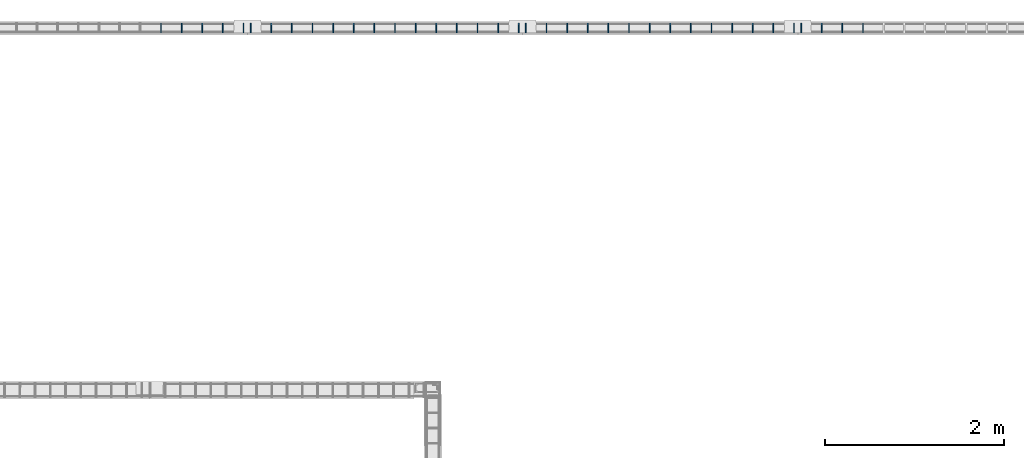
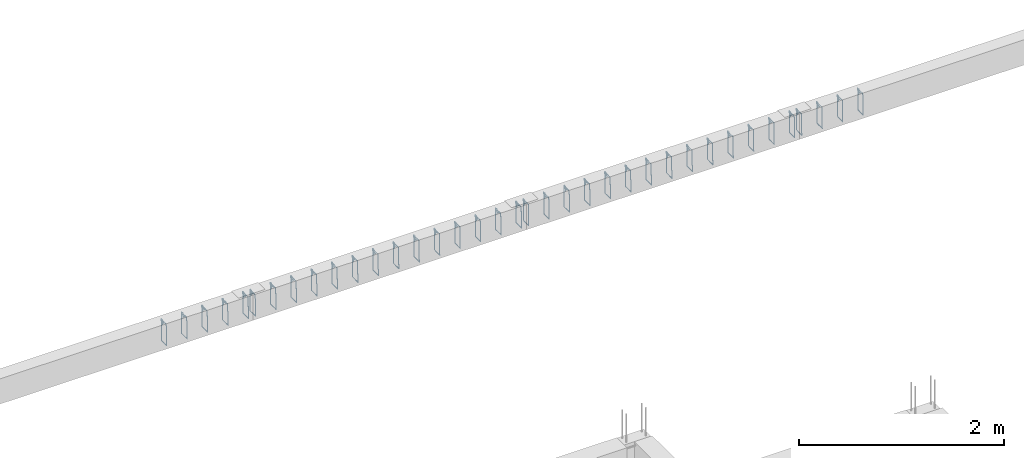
# One storey, part 127 of 150: 37 reinforcing bars.
"""IFC4 building model written with IfcOpenShell, lengths in centimetres."""

from ifc_helpers import new_model, entity, si_unit, derived_unit, frame, origin_with_axes, place, context, project, spatial, source, transform, mapped, element, save


model = new_model("IFC4")

# Units and contexts
model_context = context("Model", 3, precision=1e-05, world=origin_with_axes(), identifier="Body")
ifc_project = project(units=[si_unit("LENGTHUNIT", "METRE", prefix="CENTI"), si_unit("VOLUMEUNIT", "CUBIC_METRE"), si_unit("AREAUNIT", "SQUARE_METRE"), si_unit("POWERUNIT", "WATT"), si_unit("LUMINOUSFLUXUNIT", "LUMEN"), si_unit("ELECTRICCURRENTUNIT", "AMPERE"), si_unit("PRESSUREUNIT", "PASCAL", prefix="KILO"), si_unit("MASSUNIT", "GRAM", prefix="KILO"), si_unit("PLANEANGLEUNIT", "RADIAN"), derived_unit("VOLUMETRICFLOWRATEUNIT", [(si_unit("LENGTHUNIT", "METRE"), 3), (si_unit("TIMEUNIT", "SECOND"), -1)])], contexts=[model_context])

# Site, building, storey
site_placement = place(None, frame((-4000.0, 0.0, 0.0), z_axis=(0.0, 0.0, 1.0), x_axis=(1.0, 0.0, 0.0)))
site = spatial("IfcSite", under=ifc_project, at=site_placement, Name="PADRÃO")
building_placement = place(site_placement, frame((0.0, 0.0, -14.0)))
building = spatial("IfcBuilding", under=site, at=building_placement, Name="CRECHE PRÉ-ESCOLA TIPO 2")
placement = place(building_placement, origin_with_axes())
storey_placement = place(placement, frame((0.0, 0.0, 30.0), z_axis=(0.0, 0.0, 1.0), x_axis=(1.0, 0.0, 0.0)))
storey = spatial("IfcBuildingStorey", under=building, at=storey_placement, Name="VIGA BALDRAME", CompositionType="ELEMENT", Elevation=16.0)

# Reinforcing bars
shared_shape_1 = source(origin_with_axes(), model_context, "Body", "AdvancedSweptSolid", [
    entity("IfcSweptDiskSolid", entity("IfcCompositeCurve", [entity("IfcCompositeCurveSegment", "CONTINUOUS", True, entity("IfcPolyline", [entity("IfcCartesianPoint", [2.0, -6.0, 0.0]), entity("IfcCartesianPoint", [2.0, 0.0, 0.0])])), entity("IfcCompositeCurveSegment", "CONTINUOUS", True, entity("IfcPolyline", [entity("IfcCartesianPoint", [2.0, 0.0, 0.0]), entity("IfcCartesianPoint", [0.0, 0.0, 0.0])])), entity("IfcCompositeCurveSegment", "CONTINUOUS", True, entity("IfcPolyline", [entity("IfcCartesianPoint", [0.0, 0.0, 0.0]), entity("IfcCartesianPoint", [0.0, -25.5, 0.0])])), entity("IfcCompositeCurveSegment", "CONTINUOUS", True, entity("IfcPolyline", [entity("IfcCartesianPoint", [0.0, -25.5, 0.0]), entity("IfcCartesianPoint", [10.5, -25.5, 0.0])])), entity("IfcCompositeCurveSegment", "CONTINUOUS", True, entity("IfcPolyline", [entity("IfcCartesianPoint", [10.5, -25.5, 0.0]), entity("IfcCartesianPoint", [10.5, 0.0, 0.5])])), entity("IfcCompositeCurveSegment", "CONTINUOUS", True, entity("IfcPolyline", [entity("IfcCartesianPoint", [10.5, 0.0, 0.5]), entity("IfcCartesianPoint", [0.0, 0.0, 0.5])])), entity("IfcCompositeCurveSegment", "CONTINUOUS", True, entity("IfcPolyline", [entity("IfcCartesianPoint", [0.0, 0.0, 0.5]), entity("IfcCartesianPoint", [0.0, -2.0, 0.5])])), entity("IfcCompositeCurveSegment", "CONTINUOUS", True, entity("IfcPolyline", [entity("IfcCartesianPoint", [0.0, -2.0, 0.5]), entity("IfcCartesianPoint", [6.0, -2.0, 0.5])]))], False), 0.25),
])
for number, where, z_axis, x_axis, name in (
    (1, (813.0, 4491.75, -2.25), (-1.0, 0.0, 0.0), (0.0, -1.0, 0.0), "V101 - Estribo"),
    (2, (836.0, 4491.75, -2.25), (-1.0, 0.0, 0.0), (0.0, -1.0, 0.0), "V101 - Estribo"),
    (3, (859.0, 4491.75, -2.25), (-1.0, 0.0, 0.0), (0.0, -1.0, 0.0), "V101 - Estribo"),
    (4, (882.0, 4491.75, -2.25), (-1.0, 0.0, 0.0), (0.0, -1.0, 0.0), "V101 - Estribo"),
    (5, (905.0, 4491.75, -2.25), (-1.0, 0.0, 0.0), (0.0, -1.0, 0.0), "V101 - Estribo"),
):
    element("IfcReinforcingBar", number, at=place(storey_placement, frame(where, z_axis=z_axis, x_axis=x_axis)), inside=storey, Name=name, BarLength=0.0, CrossSectionArea=1.9634954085e-05, NominalDiameter=0.5, PredefinedType="MAIN", context=model_context, shape_type="MappedRepresentation", body=[
        mapped(shared_shape_1, transform((0.0, 0.0, 0.0), scale=1.0)),
    ])
shared_shape_2 = source(origin_with_axes(), model_context, "Body", "AdvancedSweptSolid", [
    entity("IfcSweptDiskSolid", entity("IfcCompositeCurve", [entity("IfcCompositeCurveSegment", "CONTINUOUS", True, entity("IfcPolyline", [entity("IfcCartesianPoint", [2.0, -6.0, 0.0]), entity("IfcCartesianPoint", [2.0, 0.0, 0.0])])), entity("IfcCompositeCurveSegment", "CONTINUOUS", True, entity("IfcPolyline", [entity("IfcCartesianPoint", [2.0, 0.0, 0.0]), entity("IfcCartesianPoint", [0.0, 0.0, 0.0])])), entity("IfcCompositeCurveSegment", "CONTINUOUS", True, entity("IfcPolyline", [entity("IfcCartesianPoint", [0.0, 0.0, 0.0]), entity("IfcCartesianPoint", [0.0, -25.5, 0.0])])), entity("IfcCompositeCurveSegment", "CONTINUOUS", True, entity("IfcPolyline", [entity("IfcCartesianPoint", [0.0, -25.5, 0.0]), entity("IfcCartesianPoint", [10.5, -25.5, 0.0])])), entity("IfcCompositeCurveSegment", "CONTINUOUS", True, entity("IfcPolyline", [entity("IfcCartesianPoint", [10.5, -25.5, 0.0]), entity("IfcCartesianPoint", [10.5, 0.0, 0.5])])), entity("IfcCompositeCurveSegment", "CONTINUOUS", True, entity("IfcPolyline", [entity("IfcCartesianPoint", [10.5, 0.0, 0.5]), entity("IfcCartesianPoint", [0.0, 0.0, 0.5])])), entity("IfcCompositeCurveSegment", "CONTINUOUS", True, entity("IfcPolyline", [entity("IfcCartesianPoint", [0.0, 0.0, 0.5]), entity("IfcCartesianPoint", [0.0, -2.0, 0.5])])), entity("IfcCompositeCurveSegment", "CONTINUOUS", True, entity("IfcPolyline", [entity("IfcCartesianPoint", [0.0, -2.0, 0.5]), entity("IfcCartesianPoint", [6.0, -2.0, 0.5])]))], False), 0.25),
])
for number, where, z_axis, x_axis, name in (
    (6, (913.0, 4491.75, -2.25), (-1.0, 0.0, 0.0), (0.0, -1.0, 0.0), "V101 - Estribo"),
    (7, (936.0, 4491.75, -2.25), (-1.0, 0.0, 0.0), (0.0, -1.0, 0.0), "V101 - Estribo"),
    (8, (959.0, 4491.75, -2.25), (-1.0, 0.0, 0.0), (0.0, -1.0, 0.0), "V101 - Estribo"),
    (9, (982.0, 4491.75, -2.25), (-1.0, 0.0, 0.0), (0.0, -1.0, 0.0), "V101 - Estribo"),
    (10, (1005.0, 4491.75, -2.25), (-1.0, 0.0, 0.0), (0.0, -1.0, 0.0), "V101 - Estribo"),
    (11, (1028.0, 4491.75, -2.25), (-1.0, 0.0, 0.0), (0.0, -1.0, 0.0), "V101 - Estribo"),
    (12, (1051.0, 4491.75, -2.25), (-1.0, 0.0, 0.0), (0.0, -1.0, 0.0), "V101 - Estribo"),
    (13, (1074.0, 4491.75, -2.25), (-1.0, 0.0, 0.0), (0.0, -1.0, 0.0), "V101 - Estribo"),
    (14, (1097.0, 4491.75, -2.25), (-1.0, 0.0, 0.0), (0.0, -1.0, 0.0), "V101 - Estribo"),
    (15, (1120.0, 4491.75, -2.25), (-1.0, 0.0, 0.0), (0.0, -1.0, 0.0), "V101 - Estribo"),
    (16, (1143.0, 4491.75, -2.25), (-1.0, 0.0, 0.0), (0.0, -1.0, 0.0), "V101 - Estribo"),
    (17, (1166.0, 4491.75, -2.25), (-1.0, 0.0, 0.0), (0.0, -1.0, 0.0), "V101 - Estribo"),
    (18, (1189.0, 4491.75, -2.25), (-1.0, 0.0, 0.0), (0.0, -1.0, 0.0), "V101 - Estribo"),
    (19, (1212.0, 4491.75, -2.25), (-1.0, 0.0, 0.0), (0.0, -1.0, 0.0), "V101 - Estribo"),
):
    element("IfcReinforcingBar", number, at=place(storey_placement, frame(where, z_axis=z_axis, x_axis=x_axis)), inside=storey, Name=name, BarLength=0.0, CrossSectionArea=1.9634954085e-05, NominalDiameter=0.5, PredefinedType="MAIN", context=model_context, shape_type="MappedRepresentation", body=[
        mapped(shared_shape_2, transform((0.0, 0.0, 0.0), scale=1.0)),
    ])
shared_shape_3 = source(origin_with_axes(), model_context, "Body", "AdvancedSweptSolid", [
    entity("IfcSweptDiskSolid", entity("IfcCompositeCurve", [entity("IfcCompositeCurveSegment", "CONTINUOUS", True, entity("IfcPolyline", [entity("IfcCartesianPoint", [2.0, -6.0, 0.0]), entity("IfcCartesianPoint", [2.0, 0.0, 0.0])])), entity("IfcCompositeCurveSegment", "CONTINUOUS", True, entity("IfcPolyline", [entity("IfcCartesianPoint", [2.0, 0.0, 0.0]), entity("IfcCartesianPoint", [0.0, 0.0, 0.0])])), entity("IfcCompositeCurveSegment", "CONTINUOUS", True, entity("IfcPolyline", [entity("IfcCartesianPoint", [0.0, 0.0, 0.0]), entity("IfcCartesianPoint", [0.0, -25.5, 0.0])])), entity("IfcCompositeCurveSegment", "CONTINUOUS", True, entity("IfcPolyline", [entity("IfcCartesianPoint", [0.0, -25.5, 0.0]), entity("IfcCartesianPoint", [10.5, -25.5, 0.0])])), entity("IfcCompositeCurveSegment", "CONTINUOUS", True, entity("IfcPolyline", [entity("IfcCartesianPoint", [10.5, -25.5, 0.0]), entity("IfcCartesianPoint", [10.5, 0.0, 0.5])])), entity("IfcCompositeCurveSegment", "CONTINUOUS", True, entity("IfcPolyline", [entity("IfcCartesianPoint", [10.5, 0.0, 0.5]), entity("IfcCartesianPoint", [0.0, 0.0, 0.5])])), entity("IfcCompositeCurveSegment", "CONTINUOUS", True, entity("IfcPolyline", [entity("IfcCartesianPoint", [0.0, 0.0, 0.5]), entity("IfcCartesianPoint", [0.0, -2.0, 0.5])])), entity("IfcCompositeCurveSegment", "CONTINUOUS", True, entity("IfcPolyline", [entity("IfcCartesianPoint", [0.0, -2.0, 0.5]), entity("IfcCartesianPoint", [6.0, -2.0, 0.5])]))], False), 0.25),
])
for number, where, z_axis, x_axis, name in (
    (20, (1473.0, 4491.75, -2.25), (-1.0, 0.0, 0.0), (0.0, -1.0, 0.0), "V101 - Estribo"),
    (21, (1220.0, 4491.75, -2.25), (-1.0, 0.0, 0.0), (0.0, -1.0, 0.0), "V101 - Estribo"),
    (22, (1243.0, 4491.75, -2.25), (-1.0, 0.0, 0.0), (0.0, -1.0, 0.0), "V101 - Estribo"),
    (23, (1266.0, 4491.75, -2.25), (-1.0, 0.0, 0.0), (0.0, -1.0, 0.0), "V101 - Estribo"),
    (24, (1289.0, 4491.75, -2.25), (-1.0, 0.0, 0.0), (0.0, -1.0, 0.0), "V101 - Estribo"),
    (25, (1312.0, 4491.75, -2.25), (-1.0, 0.0, 0.0), (0.0, -1.0, 0.0), "V101 - Estribo"),
    (26, (1335.0, 4491.75, -2.25), (-1.0, 0.0, 0.0), (0.0, -1.0, 0.0), "V101 - Estribo"),
    (27, (1358.0, 4491.75, -2.25), (-1.0, 0.0, 0.0), (0.0, -1.0, 0.0), "V101 - Estribo"),
    (28, (1381.0, 4491.75, -2.25), (-1.0, 0.0, 0.0), (0.0, -1.0, 0.0), "V101 - Estribo"),
    (29, (1404.0, 4491.75, -2.25), (-1.0, 0.0, 0.0), (0.0, -1.0, 0.0), "V101 - Estribo"),
    (30, (1427.0, 4491.75, -2.25), (-1.0, 0.0, 0.0), (0.0, -1.0, 0.0), "V101 - Estribo"),
    (31, (1450.0, 4491.75, -2.25), (-1.0, 0.0, 0.0), (0.0, -1.0, 0.0), "V101 - Estribo"),
    (32, (1496.0, 4491.75, -2.25), (-1.0, 0.0, 0.0), (0.0, -1.0, 0.0), "V101 - Estribo"),
    (33, (1519.0, 4491.75, -2.25), (-1.0, 0.0, 0.0), (0.0, -1.0, 0.0), "V101 - Estribo"),
):
    element("IfcReinforcingBar", number, at=place(storey_placement, frame(where, z_axis=z_axis, x_axis=x_axis)), inside=storey, Name=name, BarLength=0.0, CrossSectionArea=1.9634954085e-05, NominalDiameter=0.5, PredefinedType="MAIN", context=model_context, shape_type="MappedRepresentation", body=[
        mapped(shared_shape_3, transform((0.0, 0.0, 0.0), scale=1.0)),
    ])
shared_shape_4 = source(origin_with_axes(), model_context, "Body", "AdvancedSweptSolid", [
    entity("IfcSweptDiskSolid", entity("IfcCompositeCurve", [entity("IfcCompositeCurveSegment", "CONTINUOUS", True, entity("IfcPolyline", [entity("IfcCartesianPoint", [2.0, -6.0, 0.0]), entity("IfcCartesianPoint", [2.0, 0.0, 0.0])])), entity("IfcCompositeCurveSegment", "CONTINUOUS", True, entity("IfcPolyline", [entity("IfcCartesianPoint", [2.0, 0.0, 0.0]), entity("IfcCartesianPoint", [0.0, 0.0, 0.0])])), entity("IfcCompositeCurveSegment", "CONTINUOUS", True, entity("IfcPolyline", [entity("IfcCartesianPoint", [0.0, 0.0, 0.0]), entity("IfcCartesianPoint", [0.0, -25.5, 0.0])])), entity("IfcCompositeCurveSegment", "CONTINUOUS", True, entity("IfcPolyline", [entity("IfcCartesianPoint", [0.0, -25.5, 0.0]), entity("IfcCartesianPoint", [10.5, -25.5, 0.0])])), entity("IfcCompositeCurveSegment", "CONTINUOUS", True, entity("IfcPolyline", [entity("IfcCartesianPoint", [10.5, -25.5, 0.0]), entity("IfcCartesianPoint", [10.5, 0.0, 0.5])])), entity("IfcCompositeCurveSegment", "CONTINUOUS", True, entity("IfcPolyline", [entity("IfcCartesianPoint", [10.5, 0.0, 0.5]), entity("IfcCartesianPoint", [0.0, 0.0, 0.5])])), entity("IfcCompositeCurveSegment", "CONTINUOUS", True, entity("IfcPolyline", [entity("IfcCartesianPoint", [0.0, 0.0, 0.5]), entity("IfcCartesianPoint", [0.0, -2.0, 0.5])])), entity("IfcCompositeCurveSegment", "CONTINUOUS", True, entity("IfcPolyline", [entity("IfcCartesianPoint", [0.0, -2.0, 0.5]), entity("IfcCartesianPoint", [6.0, -2.0, 0.5])]))], False), 0.25),
])
for number, where, z_axis, x_axis, name in (
    (34, (1527.0, 4491.75, -2.25), (-1.0, 0.0, 0.0), (0.0, -1.0, 0.0), "V101 - Estribo"),
    (35, (1550.0, 4491.75, -2.25), (-1.0, 0.0, 0.0), (0.0, -1.0, 0.0), "V101 - Estribo"),
    (36, (1573.0, 4491.75, -2.25), (-1.0, 0.0, 0.0), (0.0, -1.0, 0.0), "V101 - Estribo"),
    (37, (1596.0, 4491.75, -2.25), (-1.0, 0.0, 0.0), (0.0, -1.0, 0.0), "V101 - Estribo"),
):
    element("IfcReinforcingBar", number, at=place(storey_placement, frame(where, z_axis=z_axis, x_axis=x_axis)), inside=storey, Name=name, BarLength=0.0, CrossSectionArea=1.9634954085e-05, NominalDiameter=0.5, PredefinedType="MAIN", context=model_context, shape_type="MappedRepresentation", body=[
        mapped(shared_shape_4, transform((0.0, 0.0, 0.0), scale=1.0)),
    ])

save(model, "model.ifc")
